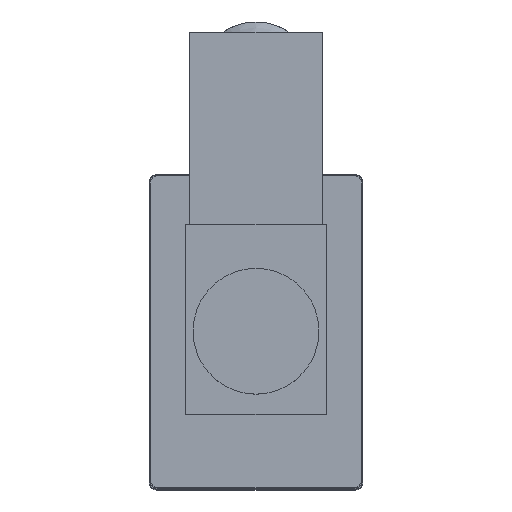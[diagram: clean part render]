
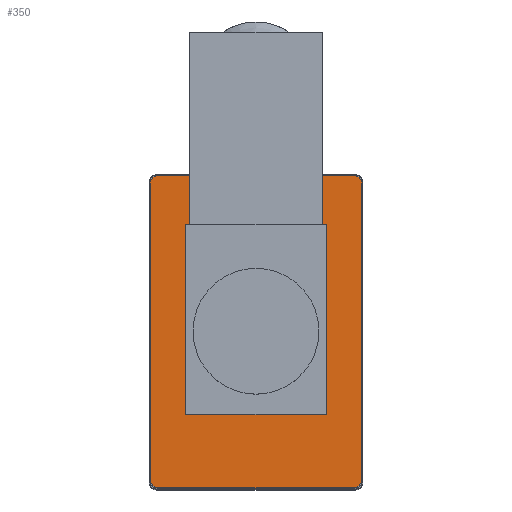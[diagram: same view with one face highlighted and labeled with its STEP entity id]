
A CAD part, top view. The second image highlights one B-rep face of the part: STEP entity #350.
In plain terms, the highlighted planar face has unit normal (0, 0, 1).
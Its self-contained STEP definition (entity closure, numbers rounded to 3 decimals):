
#350 = ADVANCED_FACE( '', ( #778, #779 ), #780, .T. );
#778 = FACE_OUTER_BOUND( '', #1259, .T. );
#779 = FACE_BOUND( '', #1260, .T. );
#780 = PLANE( '', #1261 );
#1259 = EDGE_LOOP( '', ( #2137, #2138, #2139, #2140, #2141, #2142, #2143, #2144 ) );
#1260 = EDGE_LOOP( '', ( #2145, #2146, #2147, #2148 ) );
#1261 = AXIS2_PLACEMENT_3D( '', #2149, #2150, #2151 );
#2137 = ORIENTED_EDGE( '', *, *, #2857, .T. );
#2138 = ORIENTED_EDGE( '', *, *, #2619, .T. );
#2139 = ORIENTED_EDGE( '', *, *, #2818, .T. );
#2140 = ORIENTED_EDGE( '', *, *, #2858, .T. );
#2141 = ORIENTED_EDGE( '', *, *, #2836, .T. );
#2142 = ORIENTED_EDGE( '', *, *, #2744, .T. );
#2143 = ORIENTED_EDGE( '', *, *, #2596, .T. );
#2144 = ORIENTED_EDGE( '', *, *, #2539, .T. );
#2145 = ORIENTED_EDGE( '', *, *, #2859, .T. );
#2146 = ORIENTED_EDGE( '', *, *, #2860, .T. );
#2147 = ORIENTED_EDGE( '', *, *, #2825, .F. );
#2148 = ORIENTED_EDGE( '', *, *, #2612, .F. );
#2149 = CARTESIAN_POINT( '', ( -15.6, 23.6, 28. ) );
#2150 = DIRECTION( '', ( 0., 0., 1. ) );
#2151 = DIRECTION( '', ( 1., 0., 0. ) );
#2539 = EDGE_CURVE( '', #2969, #2967, #2970, .T. );
#2596 = EDGE_CURVE( '', #3069, #2969, #3070, .T. );
#2612 = EDGE_CURVE( '', #3096, #3091, #3098, .T. );
#2619 = EDGE_CURVE( '', #3110, #3108, #3111, .T. );
#2744 = EDGE_CURVE( '', #3302, #3069, #3303, .T. );
#2818 = EDGE_CURVE( '', #3108, #3408, #3410, .T. );
#2825 = EDGE_CURVE( '', #3091, #3417, #3421, .T. );
#2836 = EDGE_CURVE( '', #3434, #3302, #3435, .T. );
#2857 = EDGE_CURVE( '', #2967, #3110, #3462, .T. );
#2858 = EDGE_CURVE( '', #3408, #3434, #3463, .T. );
#2859 = EDGE_CURVE( '', #3096, #3464, #3465, .T. );
#2860 = EDGE_CURVE( '', #3464, #3417, #3466, .T. );
#2967 = VERTEX_POINT( '', #3589 );
#2969 = VERTEX_POINT( '', #3592 );
#2970 = LINE( '', #3593, #3594 );
#3069 = VERTEX_POINT( '', #3796 );
#3070 = CIRCLE( '', #3797, 1.2 );
#3091 = VERTEX_POINT( '', #3824 );
#3096 = VERTEX_POINT( '', #3831 );
#3098 = LINE( '', #3834, #3835 );
#3108 = VERTEX_POINT( '', #3849 );
#3110 = VERTEX_POINT( '', #3852 );
#3111 = LINE( '', #3853, #3854 );
#3302 = VERTEX_POINT( '', #4115 );
#3303 = LINE( '', #4116, #4117 );
#3408 = VERTEX_POINT( '', #4308 );
#3410 = CIRCLE( '', #4311, 1.2 );
#3417 = VERTEX_POINT( '', #4318 );
#3421 = LINE( '', #4324, #4325 );
#3434 = VERTEX_POINT( '', #4342 );
#3435 = CIRCLE( '', #4343, 1.2 );
#3462 = CIRCLE( '', #4380, 1.2 );
#3463 = LINE( '', #4381, #4382 );
#3464 = VERTEX_POINT( '', #4383 );
#3465 = LINE( '', #4384, #4385 );
#3466 = LINE( '', #4386, #4387 );
#3589 = CARTESIAN_POINT( '', ( -15.6, 24.8, 28. ) );
#3592 = CARTESIAN_POINT( '', ( 15.6, 24.8, 28. ) );
#3593 = CARTESIAN_POINT( '', ( 15.6, 24.8, 28. ) );
#3594 = VECTOR( '', #4505, 1000. );
#3796 = CARTESIAN_POINT( '', ( 16.8, 23.6, 28. ) );
#3797 = AXIS2_PLACEMENT_3D( '', #4581, #4582, #4583 );
#3824 = CARTESIAN_POINT( '', ( -11.15, 17., 28. ) );
#3831 = CARTESIAN_POINT( '', ( 11.15, 17., 28. ) );
#3834 = CARTESIAN_POINT( '', ( 11.15, 17., 28. ) );
#3835 = VECTOR( '', #4602, 1000. );
#3849 = CARTESIAN_POINT( '', ( -16.8, -23.6, 28. ) );
#3852 = CARTESIAN_POINT( '', ( -16.8, 23.6, 28. ) );
#3853 = CARTESIAN_POINT( '', ( -16.8, 23.6, 28. ) );
#3854 = VECTOR( '', #4608, 1000. );
#4115 = CARTESIAN_POINT( '', ( 16.8, -23.6, 28. ) );
#4116 = CARTESIAN_POINT( '', ( 16.8, -23.6, 28. ) );
#4117 = VECTOR( '', #4776, 1000. );
#4308 = CARTESIAN_POINT( '', ( -15.6, -24.8, 28. ) );
#4311 = AXIS2_PLACEMENT_3D( '', #4869, #4870, #4871 );
#4318 = CARTESIAN_POINT( '', ( -11.15, -13.2, 28. ) );
#4324 = CARTESIAN_POINT( '', ( -11.15, 17., 28. ) );
#4325 = VECTOR( '', #4880, 1000. );
#4342 = CARTESIAN_POINT( '', ( 15.6, -24.8, 28. ) );
#4343 = AXIS2_PLACEMENT_3D( '', #4891, #4892, #4893 );
#4380 = AXIS2_PLACEMENT_3D( '', #4916, #4917, #4918 );
#4381 = CARTESIAN_POINT( '', ( -15.6, -24.8, 28. ) );
#4382 = VECTOR( '', #4919, 1000. );
#4383 = CARTESIAN_POINT( '', ( 11.15, -13.2, 28. ) );
#4384 = CARTESIAN_POINT( '', ( 11.15, 17., 28. ) );
#4385 = VECTOR( '', #4920, 1000. );
#4386 = CARTESIAN_POINT( '', ( 11.15, -13.2, 28. ) );
#4387 = VECTOR( '', #4921, 1000. );
#4505 = DIRECTION( '', ( -1., 0., 0. ) );
#4581 = CARTESIAN_POINT( '', ( 15.6, 23.6, 28. ) );
#4582 = DIRECTION( '', ( 0., 0., 1. ) );
#4583 = DIRECTION( '', ( 1., 0., 0. ) );
#4602 = DIRECTION( '', ( -1., 0., 0. ) );
#4608 = DIRECTION( '', ( 0., -1., 0. ) );
#4776 = DIRECTION( '', ( 0., 1., 0. ) );
#4869 = CARTESIAN_POINT( '', ( -15.6, -23.6, 28. ) );
#4870 = DIRECTION( '', ( 0., 0., 1. ) );
#4871 = DIRECTION( '', ( 1., 0., 0. ) );
#4880 = DIRECTION( '', ( 0., -1., 0. ) );
#4891 = CARTESIAN_POINT( '', ( 15.6, -23.6, 28. ) );
#4892 = DIRECTION( '', ( 0., 0., 1. ) );
#4893 = DIRECTION( '', ( 1., 0., 0. ) );
#4916 = CARTESIAN_POINT( '', ( -15.6, 23.6, 28. ) );
#4917 = DIRECTION( '', ( 0., 0., 1. ) );
#4918 = DIRECTION( '', ( 1., 0., 0. ) );
#4919 = DIRECTION( '', ( 1., 0., 0. ) );
#4920 = DIRECTION( '', ( 0., -1., 0. ) );
#4921 = DIRECTION( '', ( -1., 0., 0. ) );
